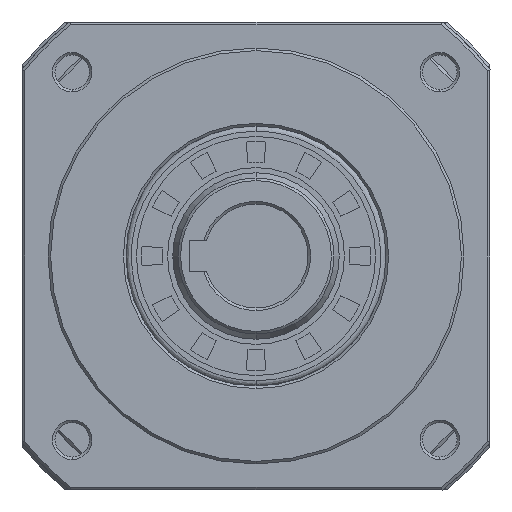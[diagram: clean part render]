
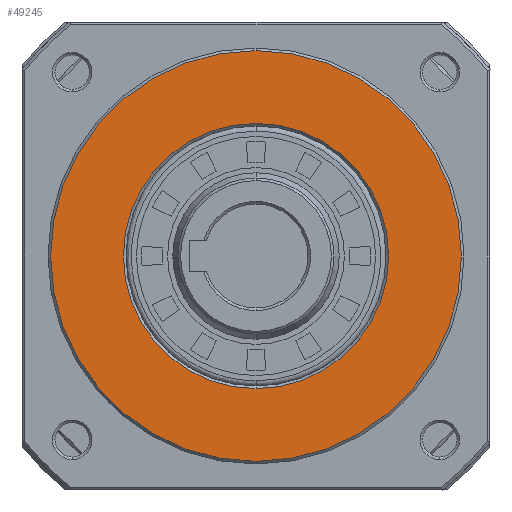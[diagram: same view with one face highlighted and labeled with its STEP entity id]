
A CAD part, left-side view. The second image highlights one B-rep face of the part: STEP entity #49245.
In plain terms, the highlighted planar face has unit normal (-1, 0, 0).
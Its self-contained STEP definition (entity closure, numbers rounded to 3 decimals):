
#3318 = CIRCLE ( 'NONE', #26862, 25.5 ) ;
#7507 = DIRECTION ( 'NONE',  ( 0., 0., -1. ) ) ;
#12418 = AXIS2_PLACEMENT_3D ( 'NONE', #29881, #50014, #7507 ) ;
#19102 = EDGE_CURVE ( 'NONE', #36825, #53267, #40197, .T. ) ;
#22381 = CIRCLE ( 'NONE', #49863, 39.5 ) ;
#26862 = AXIS2_PLACEMENT_3D ( 'NONE', #78141, #42390, #63824 ) ;
#27455 = CARTESIAN_POINT ( 'NONE',  ( 0., 0., 39.5 ) ) ;
#27470 = ORIENTED_EDGE ( 'NONE', *, *, #19102, .F. ) ;
#28488 = FACE_BOUND ( 'NONE', #58041, .T. ) ;
#29881 = CARTESIAN_POINT ( 'NONE',  ( 0., -39.974, 39.974 ) ) ;
#30464 = VERTEX_POINT ( 'NONE', #27455 ) ;
#31141 = DIRECTION ( 'NONE',  ( -1., 0., 0. ) ) ;
#31826 = ORIENTED_EDGE ( 'NONE', *, *, #51276, .T. ) ;
#32721 = ORIENTED_EDGE ( 'NONE', *, *, #65058, .T. ) ;
#33552 = CARTESIAN_POINT ( 'NONE',  ( 0., 0., -39.5 ) ) ;
#34019 = FACE_OUTER_BOUND ( 'NONE', #62006, .T. ) ;
#36825 = VERTEX_POINT ( 'NONE', #71527 ) ;
#40134 = DIRECTION ( 'NONE',  ( -1., 0., 0. ) ) ;
#40197 = CIRCLE ( 'NONE', #41732, 25.5 ) ;
#41732 = AXIS2_PLACEMENT_3D ( 'NONE', #66000, #65355, #72532 ) ;
#42390 = DIRECTION ( 'NONE',  ( -1., 0., 0. ) ) ;
#44964 = AXIS2_PLACEMENT_3D ( 'NONE', #82748, #40134, #47269 ) ;
#47269 = DIRECTION ( 'NONE',  ( 0., 0., -1. ) ) ;
#49245 = ADVANCED_FACE ( 'NONE', ( #28488, #34019 ), #72409, .F. ) ;
#49863 = AXIS2_PLACEMENT_3D ( 'NONE', #59953, #31141, #59027 ) ;
#50014 = DIRECTION ( 'NONE',  ( 1., 0., 0. ) ) ;
#51276 = EDGE_CURVE ( 'NONE', #30464, #82037, #89353, .T. ) ;
#53267 = VERTEX_POINT ( 'NONE', #88385 ) ;
#58041 = EDGE_LOOP ( 'NONE', ( #27470, #73769 ) ) ;
#59027 = DIRECTION ( 'NONE',  ( 0., 0., -1. ) ) ;
#59953 = CARTESIAN_POINT ( 'NONE',  ( 0., 0., 0. ) ) ;
#62006 = EDGE_LOOP ( 'NONE', ( #32721, #31826 ) ) ;
#63824 = DIRECTION ( 'NONE',  ( 0., 0., 1. ) ) ;
#65058 = EDGE_CURVE ( 'NONE', #82037, #30464, #22381, .T. ) ;
#65355 = DIRECTION ( 'NONE',  ( -1., 0., 0. ) ) ;
#66000 = CARTESIAN_POINT ( 'NONE',  ( 0., 0., 0. ) ) ;
#71527 = CARTESIAN_POINT ( 'NONE',  ( 0., 0., 25.5 ) ) ;
#72409 = PLANE ( 'NONE',  #12418 ) ;
#72532 = DIRECTION ( 'NONE',  ( 0., 0., 1. ) ) ;
#73769 = ORIENTED_EDGE ( 'NONE', *, *, #78652, .F. ) ;
#78141 = CARTESIAN_POINT ( 'NONE',  ( 0., 0., 0. ) ) ;
#78652 = EDGE_CURVE ( 'NONE', #53267, #36825, #3318, .T. ) ;
#82037 = VERTEX_POINT ( 'NONE', #33552 ) ;
#82748 = CARTESIAN_POINT ( 'NONE',  ( 0., 0., 0. ) ) ;
#88385 = CARTESIAN_POINT ( 'NONE',  ( 0., 0., -25.5 ) ) ;
#89353 = CIRCLE ( 'NONE', #44964, 39.5 ) ;
